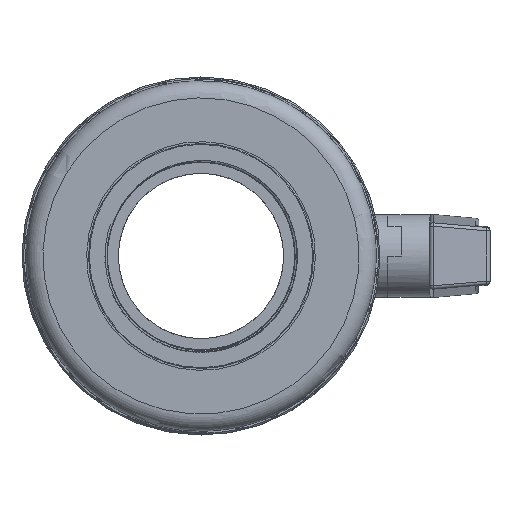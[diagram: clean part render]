
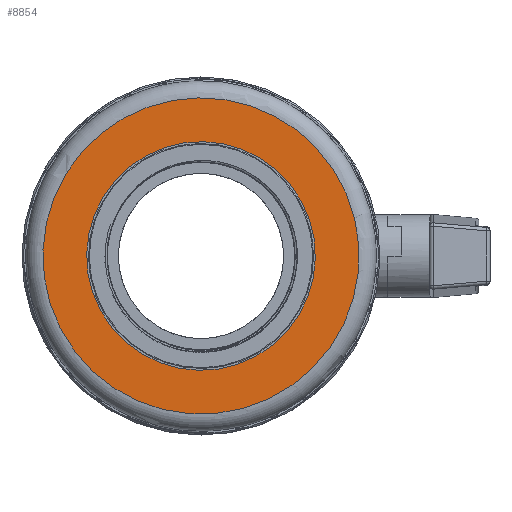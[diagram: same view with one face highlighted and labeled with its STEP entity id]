
A CAD part, front view. The second image highlights one B-rep face of the part: STEP entity #8854.
In plain terms, the highlighted planar face has unit normal (0, -1, 0).
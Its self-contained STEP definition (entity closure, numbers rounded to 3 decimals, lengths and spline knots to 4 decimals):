
#1754=FACE_BOUND('',#2538,.T.);
#2002=FACE_OUTER_BOUND('',#2537,.T.);
#2537=EDGE_LOOP('',(#6510));
#2538=EDGE_LOOP('',(#6511));
#3001=CIRCLE('',#9384,9.275);
#3065=CIRCLE('',#9489,6.705);
#3610=VERTEX_POINT('',#37718);
#3670=VERTEX_POINT('',#41649);
#4561=EDGE_CURVE('',#3610,#3610,#3001,.T.);
#4683=EDGE_CURVE('',#3670,#3670,#3065,.T.);
#6510=ORIENTED_EDGE('',*,*,#4561,.F.);
#6511=ORIENTED_EDGE('',*,*,#4683,.T.);
#8033=PLANE('',#9488);
#8854=ADVANCED_FACE('',(#2002,#1754),#8033,.T.);
#9384=AXIS2_PLACEMENT_3D('',#37719,#10600,#10601);
#9488=AXIS2_PLACEMENT_3D('',#41648,#10842,#10843);
#9489=AXIS2_PLACEMENT_3D('',#41650,#10844,#10845);
#10600=DIRECTION('center_axis',(0.,1.,0.));
#10601=DIRECTION('ref_axis',(0.751,0.,-0.661));
#10842=DIRECTION('center_axis',(0.,-1.,0.));
#10843=DIRECTION('ref_axis',(-0.661,0.,-0.751));
#10844=DIRECTION('center_axis',(0.,1.,0.));
#10845=DIRECTION('ref_axis',(0.751,0.,-0.661));
#37718=CARTESIAN_POINT('',(-6.9614,-10.35,6.129));
#37719=CARTESIAN_POINT('Origin',(0.,-10.35,0.));
#41648=CARTESIAN_POINT('Origin',(-6.9614,-10.35,6.129));
#41649=CARTESIAN_POINT('',(-5.0325,-10.35,4.4307));
#41650=CARTESIAN_POINT('Origin',(0.,-10.35,0.));
